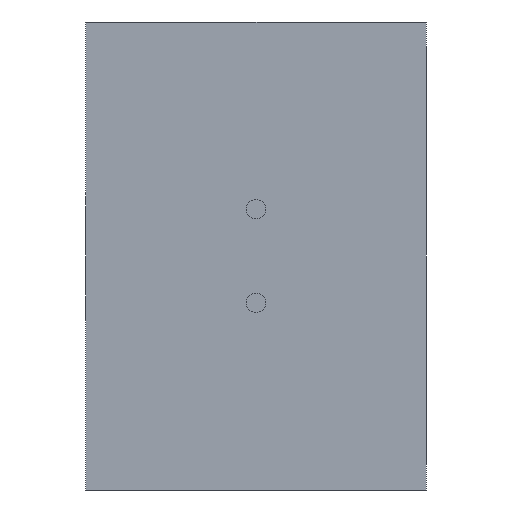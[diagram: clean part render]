
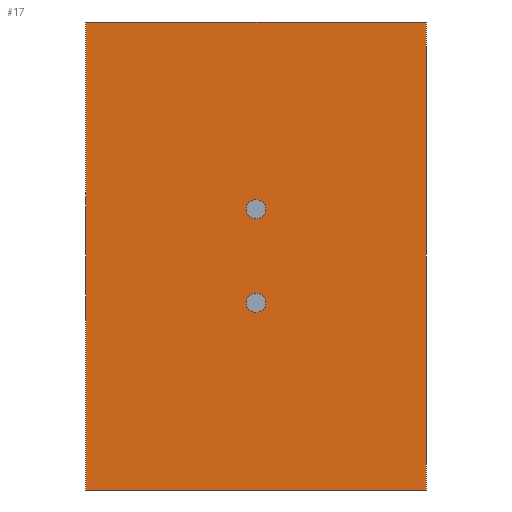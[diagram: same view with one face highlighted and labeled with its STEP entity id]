
A CAD part, left-side view. The second image highlights one B-rep face of the part: STEP entity #17.
In plain terms, the highlighted planar face has unit normal (-1, 0, 0).
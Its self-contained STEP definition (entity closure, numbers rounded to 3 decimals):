
#17 = ADVANCED_FACE('',(#18,#137,#168),#32,.F.);
#18 = FACE_BOUND('',#19,.T.);
#19 = EDGE_LOOP('',(#20,#55,#83,#111));
#20 = ORIENTED_EDGE('',*,*,#21,.F.);
#21 = EDGE_CURVE('',#22,#24,#26,.T.);
#22 = VERTEX_POINT('',#23);
#23 = CARTESIAN_POINT('',(-40.,48.,272.));
#24 = VERTEX_POINT('',#25);
#25 = CARTESIAN_POINT('',(-40.,8.,272.));
#26 = SURFACE_CURVE('',#27,(#31,#43),.PCURVE_S1.);
#27 = LINE('',#28,#29);
#28 = CARTESIAN_POINT('',(-40.,8.,272.));
#29 = VECTOR('',#30,1.);
#30 = DIRECTION('',(0.,-1.,0.));
#31 = PCURVE('',#32,#37);
#32 = PLANE('',#33);
#33 = AXIS2_PLACEMENT_3D('',#34,#35,#36);
#34 = CARTESIAN_POINT('',(-40.,8.,217.));
#35 = DIRECTION('',(1.,0.,0.));
#36 = DIRECTION('',(0.,0.,1.));
#37 = DEFINITIONAL_REPRESENTATION('',(#38),#42);
#38 = LINE('',#39,#40);
#39 = CARTESIAN_POINT('',(55.,0.));
#40 = VECTOR('',#41,1.);
#41 = DIRECTION('',(0.,1.));
#42 = ( GEOMETRIC_REPRESENTATION_CONTEXT(2) 
PARAMETRIC_REPRESENTATION_CONTEXT() REPRESENTATION_CONTEXT('2D SPACE',''
  ) );
#43 = PCURVE('',#44,#49);
#44 = PLANE('',#45);
#45 = AXIS2_PLACEMENT_3D('',#46,#47,#48);
#46 = CARTESIAN_POINT('',(-40.,8.,272.));
#47 = DIRECTION('',(0.,0.,1.));
#48 = DIRECTION('',(1.,0.,0.));
#49 = DEFINITIONAL_REPRESENTATION('',(#50),#54);
#50 = LINE('',#51,#52);
#51 = CARTESIAN_POINT('',(0.,0.));
#52 = VECTOR('',#53,1.);
#53 = DIRECTION('',(0.,-1.));
#54 = ( GEOMETRIC_REPRESENTATION_CONTEXT(2) 
PARAMETRIC_REPRESENTATION_CONTEXT() REPRESENTATION_CONTEXT('2D SPACE',''
  ) );
#55 = ORIENTED_EDGE('',*,*,#56,.F.);
#56 = EDGE_CURVE('',#57,#22,#59,.T.);
#57 = VERTEX_POINT('',#58);
#58 = CARTESIAN_POINT('',(-40.,48.,217.));
#59 = SURFACE_CURVE('',#60,(#64,#71),.PCURVE_S1.);
#60 = LINE('',#61,#62);
#61 = CARTESIAN_POINT('',(-40.,48.,217.));
#62 = VECTOR('',#63,1.);
#63 = DIRECTION('',(0.,0.,1.));
#64 = PCURVE('',#32,#65);
#65 = DEFINITIONAL_REPRESENTATION('',(#66),#70);
#66 = LINE('',#67,#68);
#67 = CARTESIAN_POINT('',(0.,-40.));
#68 = VECTOR('',#69,1.);
#69 = DIRECTION('',(1.,0.));
#70 = ( GEOMETRIC_REPRESENTATION_CONTEXT(2) 
PARAMETRIC_REPRESENTATION_CONTEXT() REPRESENTATION_CONTEXT('2D SPACE',''
  ) );
#71 = PCURVE('',#72,#77);
#72 = PLANE('',#73);
#73 = AXIS2_PLACEMENT_3D('',#74,#75,#76);
#74 = CARTESIAN_POINT('',(-40.,48.,217.));
#75 = DIRECTION('',(0.,1.,0.));
#76 = DIRECTION('',(0.,0.,1.));
#77 = DEFINITIONAL_REPRESENTATION('',(#78),#82);
#78 = LINE('',#79,#80);
#79 = CARTESIAN_POINT('',(0.,0.));
#80 = VECTOR('',#81,1.);
#81 = DIRECTION('',(1.,0.));
#82 = ( GEOMETRIC_REPRESENTATION_CONTEXT(2) 
PARAMETRIC_REPRESENTATION_CONTEXT() REPRESENTATION_CONTEXT('2D SPACE',''
  ) );
#83 = ORIENTED_EDGE('',*,*,#84,.F.);
#84 = EDGE_CURVE('',#85,#57,#87,.T.);
#85 = VERTEX_POINT('',#86);
#86 = CARTESIAN_POINT('',(-40.,8.,217.));
#87 = SURFACE_CURVE('',#88,(#92,#99),.PCURVE_S1.);
#88 = LINE('',#89,#90);
#89 = CARTESIAN_POINT('',(-40.,8.,217.));
#90 = VECTOR('',#91,1.);
#91 = DIRECTION('',(0.,1.,0.));
#92 = PCURVE('',#32,#93);
#93 = DEFINITIONAL_REPRESENTATION('',(#94),#98);
#94 = LINE('',#95,#96);
#95 = CARTESIAN_POINT('',(0.,0.));
#96 = VECTOR('',#97,1.);
#97 = DIRECTION('',(0.,-1.));
#98 = ( GEOMETRIC_REPRESENTATION_CONTEXT(2) 
PARAMETRIC_REPRESENTATION_CONTEXT() REPRESENTATION_CONTEXT('2D SPACE',''
  ) );
#99 = PCURVE('',#100,#105);
#100 = PLANE('',#101);
#101 = AXIS2_PLACEMENT_3D('',#102,#103,#104);
#102 = CARTESIAN_POINT('',(-40.,8.,217.));
#103 = DIRECTION('',(0.,0.,1.));
#104 = DIRECTION('',(1.,0.,0.));
#105 = DEFINITIONAL_REPRESENTATION('',(#106),#110);
#106 = LINE('',#107,#108);
#107 = CARTESIAN_POINT('',(0.,0.));
#108 = VECTOR('',#109,1.);
#109 = DIRECTION('',(0.,1.));
#110 = ( GEOMETRIC_REPRESENTATION_CONTEXT(2) 
PARAMETRIC_REPRESENTATION_CONTEXT() REPRESENTATION_CONTEXT('2D SPACE',''
  ) );
#111 = ORIENTED_EDGE('',*,*,#112,.T.);
#112 = EDGE_CURVE('',#85,#24,#113,.T.);
#113 = SURFACE_CURVE('',#114,(#118,#125),.PCURVE_S1.);
#114 = LINE('',#115,#116);
#115 = CARTESIAN_POINT('',(-40.,8.,217.));
#116 = VECTOR('',#117,1.);
#117 = DIRECTION('',(0.,0.,1.));
#118 = PCURVE('',#32,#119);
#119 = DEFINITIONAL_REPRESENTATION('',(#120),#124);
#120 = LINE('',#121,#122);
#121 = CARTESIAN_POINT('',(0.,0.));
#122 = VECTOR('',#123,1.);
#123 = DIRECTION('',(1.,0.));
#124 = ( GEOMETRIC_REPRESENTATION_CONTEXT(2) 
PARAMETRIC_REPRESENTATION_CONTEXT() REPRESENTATION_CONTEXT('2D SPACE',''
  ) );
#125 = PCURVE('',#126,#131);
#126 = PLANE('',#127);
#127 = AXIS2_PLACEMENT_3D('',#128,#129,#130);
#128 = CARTESIAN_POINT('',(-40.,8.,217.));
#129 = DIRECTION('',(0.,1.,0.));
#130 = DIRECTION('',(0.,0.,1.));
#131 = DEFINITIONAL_REPRESENTATION('',(#132),#136);
#132 = LINE('',#133,#134);
#133 = CARTESIAN_POINT('',(0.,0.));
#134 = VECTOR('',#135,1.);
#135 = DIRECTION('',(1.,0.));
#136 = ( GEOMETRIC_REPRESENTATION_CONTEXT(2) 
PARAMETRIC_REPRESENTATION_CONTEXT() REPRESENTATION_CONTEXT('2D SPACE',''
  ) );
#137 = FACE_BOUND('',#138,.T.);
#138 = EDGE_LOOP('',(#139));
#139 = ORIENTED_EDGE('',*,*,#140,.T.);
#140 = EDGE_CURVE('',#141,#141,#143,.T.);
#141 = VERTEX_POINT('',#142);
#142 = CARTESIAN_POINT('',(-40.,28.,237.85));
#143 = SURFACE_CURVE('',#144,(#149,#156),.PCURVE_S1.);
#144 = CIRCLE('',#145,1.15);
#145 = AXIS2_PLACEMENT_3D('',#146,#147,#148);
#146 = CARTESIAN_POINT('',(-40.,28.,239.));
#147 = DIRECTION('',(1.,-0.,0.));
#148 = DIRECTION('',(0.,0.,-1.));
#149 = PCURVE('',#32,#150);
#150 = DEFINITIONAL_REPRESENTATION('',(#151),#155);
#151 = CIRCLE('',#152,1.15);
#152 = AXIS2_PLACEMENT_2D('',#153,#154);
#153 = CARTESIAN_POINT('',(22.,-20.));
#154 = DIRECTION('',(-1.,0.));
#155 = ( GEOMETRIC_REPRESENTATION_CONTEXT(2) 
PARAMETRIC_REPRESENTATION_CONTEXT() REPRESENTATION_CONTEXT('2D SPACE',''
  ) );
#156 = PCURVE('',#157,#162);
#157 = CYLINDRICAL_SURFACE('',#158,1.15);
#158 = AXIS2_PLACEMENT_3D('',#159,#160,#161);
#159 = CARTESIAN_POINT('',(-40.,28.,239.));
#160 = DIRECTION('',(1.,0.,0.));
#161 = DIRECTION('',(0.,0.,1.));
#162 = DEFINITIONAL_REPRESENTATION('',(#163),#167);
#163 = LINE('',#164,#165);
#164 = CARTESIAN_POINT('',(3.142,0.));
#165 = VECTOR('',#166,1.);
#166 = DIRECTION('',(1.,0.));
#167 = ( GEOMETRIC_REPRESENTATION_CONTEXT(2) 
PARAMETRIC_REPRESENTATION_CONTEXT() REPRESENTATION_CONTEXT('2D SPACE',''
  ) );
#168 = FACE_BOUND('',#169,.T.);
#169 = EDGE_LOOP('',(#170));
#170 = ORIENTED_EDGE('',*,*,#171,.T.);
#171 = EDGE_CURVE('',#172,#172,#174,.T.);
#172 = VERTEX_POINT('',#173);
#173 = CARTESIAN_POINT('',(-40.,28.,248.85));
#174 = SURFACE_CURVE('',#175,(#180,#187),.PCURVE_S1.);
#175 = CIRCLE('',#176,1.15);
#176 = AXIS2_PLACEMENT_3D('',#177,#178,#179);
#177 = CARTESIAN_POINT('',(-40.,28.,250.));
#178 = DIRECTION('',(1.,-0.,0.));
#179 = DIRECTION('',(0.,0.,-1.));
#180 = PCURVE('',#32,#181);
#181 = DEFINITIONAL_REPRESENTATION('',(#182),#186);
#182 = CIRCLE('',#183,1.15);
#183 = AXIS2_PLACEMENT_2D('',#184,#185);
#184 = CARTESIAN_POINT('',(33.,-20.));
#185 = DIRECTION('',(-1.,0.));
#186 = ( GEOMETRIC_REPRESENTATION_CONTEXT(2) 
PARAMETRIC_REPRESENTATION_CONTEXT() REPRESENTATION_CONTEXT('2D SPACE',''
  ) );
#187 = PCURVE('',#188,#193);
#188 = CYLINDRICAL_SURFACE('',#189,1.15);
#189 = AXIS2_PLACEMENT_3D('',#190,#191,#192);
#190 = CARTESIAN_POINT('',(-40.,28.,250.));
#191 = DIRECTION('',(1.,0.,0.));
#192 = DIRECTION('',(0.,0.,1.));
#193 = DEFINITIONAL_REPRESENTATION('',(#194),#198);
#194 = LINE('',#195,#196);
#195 = CARTESIAN_POINT('',(3.142,0.));
#196 = VECTOR('',#197,1.);
#197 = DIRECTION('',(1.,0.));
#198 = ( GEOMETRIC_REPRESENTATION_CONTEXT(2) 
PARAMETRIC_REPRESENTATION_CONTEXT() REPRESENTATION_CONTEXT('2D SPACE',''
  ) );
